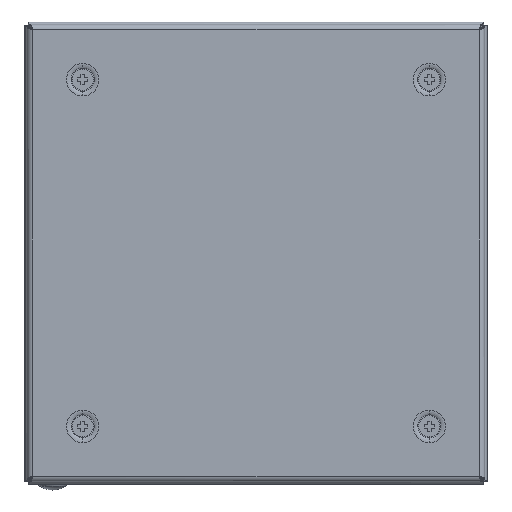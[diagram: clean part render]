
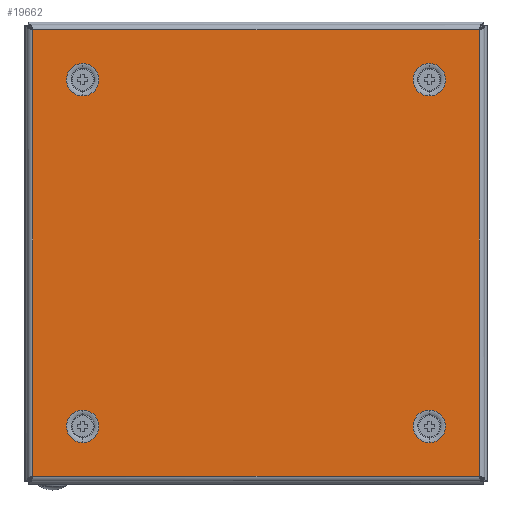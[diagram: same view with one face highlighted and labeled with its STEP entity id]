
A CAD part, top view. The second image highlights one B-rep face of the part: STEP entity #19662.
In plain terms, the highlighted planar face has unit normal (0, 0, 1).
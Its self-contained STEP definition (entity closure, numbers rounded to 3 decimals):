
#274 = AXIS2_PLACEMENT_3D ( 'NONE', #5290, #7707, #23929 ) ;
#303 = CARTESIAN_POINT ( 'NONE',  ( -75., -82.05, 0. ) ) ;
#341 = DIRECTION ( 'NONE',  ( -1., 0., 0. ) ) ;
#765 = CARTESIAN_POINT ( 'NONE',  ( 96.6, 96.6, 0. ) ) ;
#790 = VERTEX_POINT ( 'NONE', #5853 ) ;
#986 = VECTOR ( 'NONE', #26344, 1000. ) ;
#1176 = DIRECTION ( 'NONE',  ( 0., 1., 0. ) ) ;
#1205 = DIRECTION ( 'NONE',  ( 0., 0., 1. ) ) ;
#1604 = VERTEX_POINT ( 'NONE', #6078 ) ;
#1783 = VERTEX_POINT ( 'NONE', #14619 ) ;
#1879 = EDGE_CURVE ( 'NONE', #12481, #18639, #27770, .T. ) ;
#2803 = AXIS2_PLACEMENT_3D ( 'NONE', #23224, #21114, #20662 ) ;
#3042 = CARTESIAN_POINT ( 'NONE',  ( 75., -75., 0. ) ) ;
#3277 = CIRCLE ( 'NONE', #2803, 7.05 ) ;
#3514 = EDGE_LOOP ( 'NONE', ( #11726, #23881 ) ) ;
#3750 = VECTOR ( 'NONE', #341, 1000. ) ;
#3778 = ORIENTED_EDGE ( 'NONE', *, *, #1879, .F. ) ;
#3856 = EDGE_LOOP ( 'NONE', ( #16468, #3778 ) ) ;
#4731 = CIRCLE ( 'NONE', #6172, 7.05 ) ;
#4794 = EDGE_CURVE ( 'NONE', #1604, #6697, #16259, .T. ) ;
#5235 = AXIS2_PLACEMENT_3D ( 'NONE', #10449, #14981, #13018 ) ;
#5290 = CARTESIAN_POINT ( 'NONE',  ( 0., 0., 0. ) ) ;
#5585 = EDGE_LOOP ( 'NONE', ( #12299, #10353 ) ) ;
#5587 = FACE_BOUND ( 'NONE', #3514, .T. ) ;
#5853 = CARTESIAN_POINT ( 'NONE',  ( -96.6, 96.6, 0. ) ) ;
#6078 = CARTESIAN_POINT ( 'NONE',  ( -75., 67.95, 0. ) ) ;
#6172 = AXIS2_PLACEMENT_3D ( 'NONE', #19497, #21292, #15143 ) ;
#6697 = VERTEX_POINT ( 'NONE', #21290 ) ;
#7122 = CIRCLE ( 'NONE', #20572, 7.05 ) ;
#7351 = CIRCLE ( 'NONE', #23657, 7.05 ) ;
#7425 = DIRECTION ( 'NONE',  ( 0., -1., 0. ) ) ;
#7445 = VERTEX_POINT ( 'NONE', #303 ) ;
#7557 = FACE_OUTER_BOUND ( 'NONE', #7661, .T. ) ;
#7661 = EDGE_LOOP ( 'NONE', ( #17024, #17920, #13297, #10650 ) ) ;
#7707 = DIRECTION ( 'NONE',  ( 0., 0., 1. ) ) ;
#7778 = DIRECTION ( 'NONE',  ( 0., -1., 0. ) ) ;
#8090 = EDGE_CURVE ( 'NONE', #18843, #1783, #10459, .T. ) ;
#8589 = EDGE_CURVE ( 'NONE', #13866, #790, #25590, .T. ) ;
#9075 = CIRCLE ( 'NONE', #27758, 7.05 ) ;
#9756 = EDGE_CURVE ( 'NONE', #12585, #7445, #9075, .T. ) ;
#9955 = FACE_BOUND ( 'NONE', #5585, .T. ) ;
#10353 = ORIENTED_EDGE ( 'NONE', *, *, #9756, .F. ) ;
#10449 = CARTESIAN_POINT ( 'NONE',  ( -75., 75., 0. ) ) ;
#10459 = CIRCLE ( 'NONE', #14314, 7.05 ) ;
#10538 = EDGE_CURVE ( 'NONE', #18639, #12481, #7122, .T. ) ;
#10636 = EDGE_CURVE ( 'NONE', #7445, #12585, #4731, .T. ) ;
#10650 = ORIENTED_EDGE ( 'NONE', *, *, #8589, .T. ) ;
#10654 = ORIENTED_EDGE ( 'NONE', *, *, #4794, .F. ) ;
#10967 = EDGE_CURVE ( 'NONE', #1783, #18843, #3277, .T. ) ;
#11726 = ORIENTED_EDGE ( 'NONE', *, *, #10967, .F. ) ;
#11776 = CARTESIAN_POINT ( 'NONE',  ( -75., -67.95, 0. ) ) ;
#12215 = DIRECTION ( 'NONE',  ( 0., -1., 0. ) ) ;
#12299 = ORIENTED_EDGE ( 'NONE', *, *, #10636, .F. ) ;
#12365 = PLANE ( 'NONE',  #274 ) ;
#12481 = VERTEX_POINT ( 'NONE', #16140 ) ;
#12585 = VERTEX_POINT ( 'NONE', #11776 ) ;
#12703 = VECTOR ( 'NONE', #1176, 1000. ) ;
#13018 = DIRECTION ( 'NONE',  ( 0., 1., 0. ) ) ;
#13297 = ORIENTED_EDGE ( 'NONE', *, *, #29031, .T. ) ;
#13866 = VERTEX_POINT ( 'NONE', #765 ) ;
#14278 = CARTESIAN_POINT ( 'NONE',  ( 96.6, -97.659, 0. ) ) ;
#14283 = DIRECTION ( 'NONE',  ( 1., 0., 0. ) ) ;
#14314 = AXIS2_PLACEMENT_3D ( 'NONE', #23710, #14852, #7778 ) ;
#14331 = FACE_BOUND ( 'NONE', #15314, .T. ) ;
#14619 = CARTESIAN_POINT ( 'NONE',  ( 75., 67.95, 0. ) ) ;
#14852 = DIRECTION ( 'NONE',  ( 0., 0., 1. ) ) ;
#14865 = AXIS2_PLACEMENT_3D ( 'NONE', #21794, #1205, #28840 ) ;
#14981 = DIRECTION ( 'NONE',  ( 0., 0., 1. ) ) ;
#15143 = DIRECTION ( 'NONE',  ( 0., -1., 0. ) ) ;
#15314 = EDGE_LOOP ( 'NONE', ( #23154, #10654 ) ) ;
#15438 = VERTEX_POINT ( 'NONE', #25385 ) ;
#15489 = DIRECTION ( 'NONE',  ( 0., 1., 0. ) ) ;
#16140 = CARTESIAN_POINT ( 'NONE',  ( 75., -67.95, 0. ) ) ;
#16259 = CIRCLE ( 'NONE', #5235, 7.05 ) ;
#16468 = ORIENTED_EDGE ( 'NONE', *, *, #10538, .F. ) ;
#17024 = ORIENTED_EDGE ( 'NONE', *, *, #24585, .T. ) ;
#17584 = CARTESIAN_POINT ( 'NONE',  ( -75., 75., 0. ) ) ;
#17616 = VERTEX_POINT ( 'NONE', #26488 ) ;
#17920 = ORIENTED_EDGE ( 'NONE', *, *, #18630, .T. ) ;
#18630 = EDGE_CURVE ( 'NONE', #15438, #17616, #28220, .T. ) ;
#18639 = VERTEX_POINT ( 'NONE', #18794 ) ;
#18786 = LINE ( 'NONE', #14278, #12703 ) ;
#18794 = CARTESIAN_POINT ( 'NONE',  ( 75., -82.05, 0. ) ) ;
#18843 = VERTEX_POINT ( 'NONE', #24175 ) ;
#19497 = CARTESIAN_POINT ( 'NONE',  ( -75., -75., 0. ) ) ;
#19592 = CARTESIAN_POINT ( 'NONE',  ( -96.6, 97.659, 0. ) ) ;
#19662 = ADVANCED_FACE ( 'NONE', ( #25883, #5587, #9955, #14331, #7557 ), #12365, .T. ) ;
#20572 = AXIS2_PLACEMENT_3D ( 'NONE', #3042, #27815, #12215 ) ;
#20662 = DIRECTION ( 'NONE',  ( 0., -1., 0. ) ) ;
#20935 = CARTESIAN_POINT ( 'NONE',  ( 97.659, 96.6, 0. ) ) ;
#21114 = DIRECTION ( 'NONE',  ( 0., 0., 1. ) ) ;
#21186 = CARTESIAN_POINT ( 'NONE',  ( -97.659, -96.6, 0. ) ) ;
#21290 = CARTESIAN_POINT ( 'NONE',  ( -75., 82.05, 0. ) ) ;
#21292 = DIRECTION ( 'NONE',  ( 0., 0., 1. ) ) ;
#21794 = CARTESIAN_POINT ( 'NONE',  ( 75., -75., 0. ) ) ;
#22379 = DIRECTION ( 'NONE',  ( 0., 0., 1. ) ) ;
#23154 = ORIENTED_EDGE ( 'NONE', *, *, #27329, .F. ) ;
#23224 = CARTESIAN_POINT ( 'NONE',  ( 75., 75., 0. ) ) ;
#23657 = AXIS2_PLACEMENT_3D ( 'NONE', #17584, #22379, #15489 ) ;
#23710 = CARTESIAN_POINT ( 'NONE',  ( 75., 75., 0. ) ) ;
#23881 = ORIENTED_EDGE ( 'NONE', *, *, #8090, .F. ) ;
#23929 = DIRECTION ( 'NONE',  ( 1., 0., 0. ) ) ;
#24175 = CARTESIAN_POINT ( 'NONE',  ( 75., 82.05, 0. ) ) ;
#24585 = EDGE_CURVE ( 'NONE', #790, #15438, #26054, .T. ) ;
#25385 = CARTESIAN_POINT ( 'NONE',  ( -96.6, -96.6, 0. ) ) ;
#25590 = LINE ( 'NONE', #20935, #3750 ) ;
#25597 = CARTESIAN_POINT ( 'NONE',  ( -75., -75., 0. ) ) ;
#25883 = FACE_BOUND ( 'NONE', #3856, .T. ) ;
#26054 = LINE ( 'NONE', #19592, #986 ) ;
#26344 = DIRECTION ( 'NONE',  ( 0., -1., 0. ) ) ;
#26488 = CARTESIAN_POINT ( 'NONE',  ( 96.6, -96.6, 0. ) ) ;
#27329 = EDGE_CURVE ( 'NONE', #6697, #1604, #7351, .T. ) ;
#27758 = AXIS2_PLACEMENT_3D ( 'NONE', #25597, #28131, #7425 ) ;
#27770 = CIRCLE ( 'NONE', #14865, 7.05 ) ;
#27815 = DIRECTION ( 'NONE',  ( 0., 0., 1. ) ) ;
#28131 = DIRECTION ( 'NONE',  ( 0., 0., 1. ) ) ;
#28220 = LINE ( 'NONE', #21186, #28401 ) ;
#28401 = VECTOR ( 'NONE', #14283, 1000. ) ;
#28840 = DIRECTION ( 'NONE',  ( 0., -1., 0. ) ) ;
#29031 = EDGE_CURVE ( 'NONE', #17616, #13866, #18786, .T. ) ;
